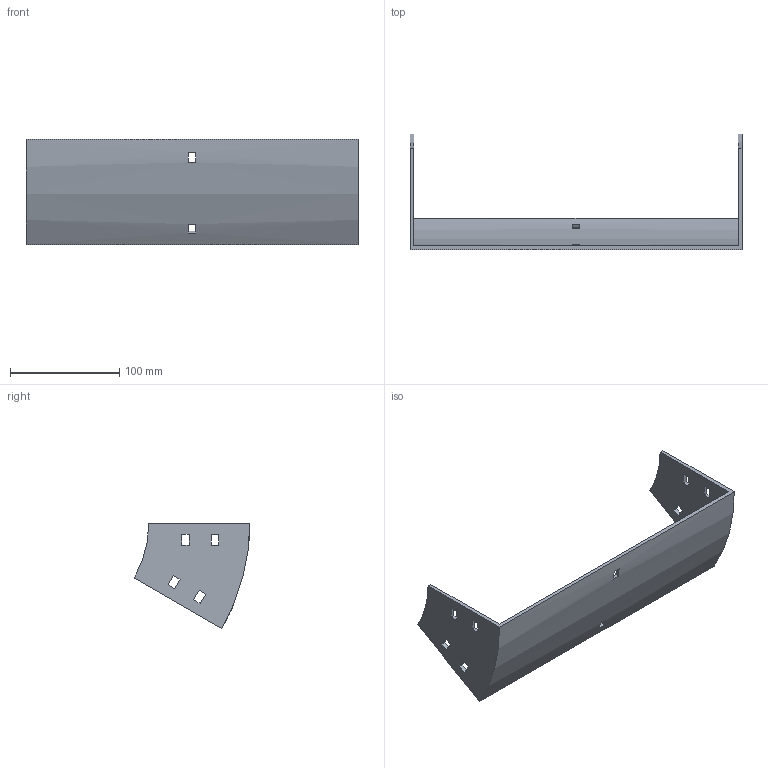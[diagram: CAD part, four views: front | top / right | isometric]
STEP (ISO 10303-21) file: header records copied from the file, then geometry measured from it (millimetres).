
FILE_DESCRIPTION (( 'STEP AP214' ), '1' );
FILE_NAME ('32B1I300.step', '2025-02-21T09:45:17', ( '' ), ( '' ), 'SwSTEP 2.0', 'SolidWorks 2023', '' );
FILE_SCHEMA (( 'AUTOMOTIVE_DESIGN' ));
Length unit declared in the file: millimetre
Products named in the file (1): 32B1I300
Bounding box: 304 x 105.9 x 96.25 mm (x, y, z)
Volume: 151033.7 mm3; surface area: 91221.7 mm2
Topology: 1 solids, 1 shells, 50 faces, 144 edges, 96 vertices
Faces by surface type: plane 46, cylinder 4
Entity records: 1687 total; most frequent: CARTESIAN_POINT 291, ORIENTED_EDGE 288, DIRECTION 262, EDGE_CURVE 144, LINE 128, VECTOR 128, VERTEX_POINT 96, EDGE_LOOP 70
